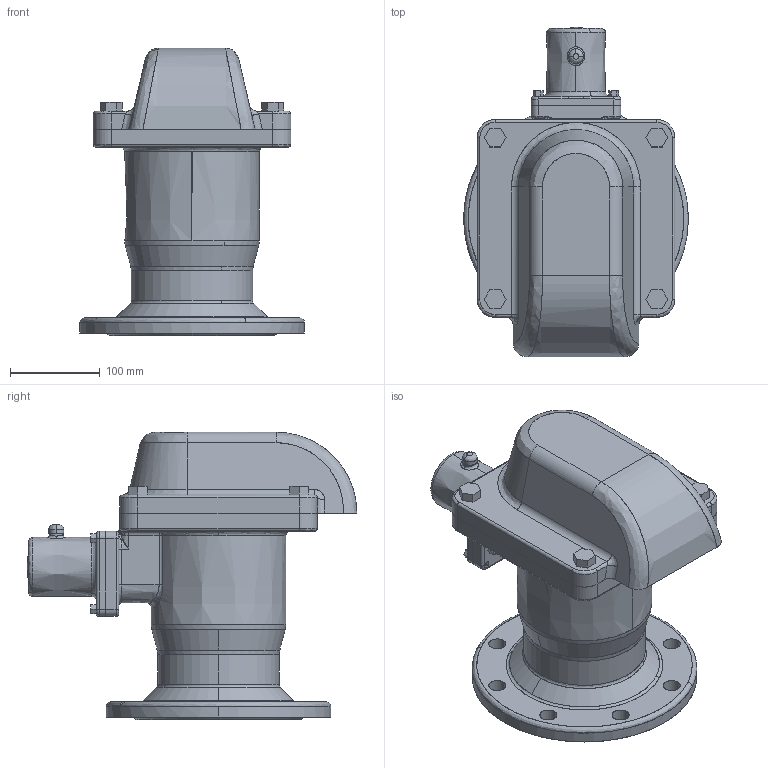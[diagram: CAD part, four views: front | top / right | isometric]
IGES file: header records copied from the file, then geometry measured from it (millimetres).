
Start section: SolidWorks IGES file using analytic representation for surfaces
Global section: file name: C:\Users\Administrator\Desktop\temp\0.IGS; native system: SolidWorks 2015; preprocessor: SolidWorks 2015; author: Administrator; date: 170528.114751; units: millimetre
Bounding box: 250 x 367 x 320 mm (x, y, z)
Surface area: 898966.8 mm2 (no closed solid volume)
Topology: 0 solids, 0 shells, 462 faces, 7470 edges, 7454 vertices
Faces by surface type: bspline 252, revolution 210
